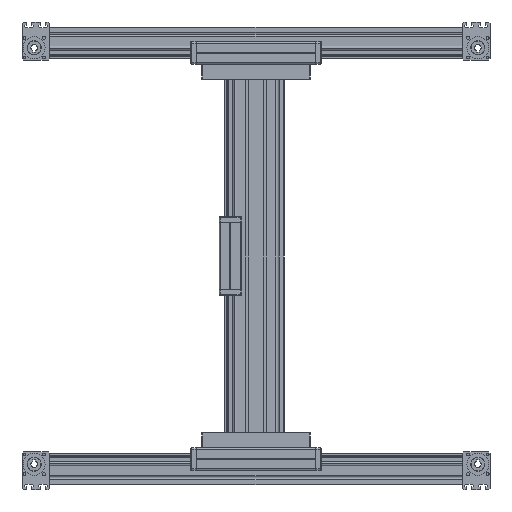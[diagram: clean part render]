
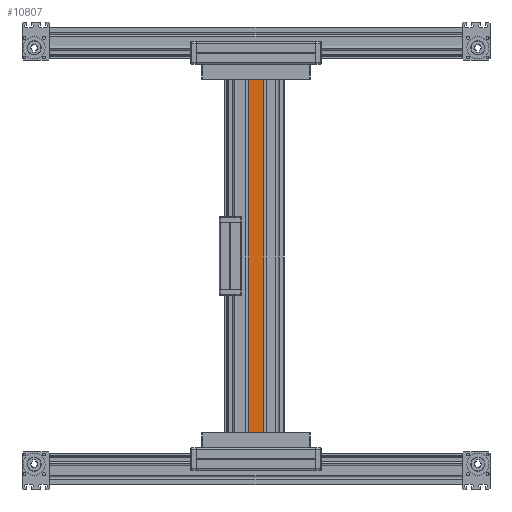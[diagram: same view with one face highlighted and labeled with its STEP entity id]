
A CAD part, left-side view. The second image highlights one B-rep face of the part: STEP entity #10807.
In plain terms, the highlighted planar face has unit normal (-1, 0, 0).
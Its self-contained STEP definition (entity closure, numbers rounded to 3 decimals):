
#427 = DIRECTION ( 'NONE',  ( -1., 0., 0. ) ) ;
#1083 = LINE ( 'NONE', #24496, #2079 ) ;
#2079 = VECTOR ( 'NONE', #24230, 1000. ) ;
#2418 = VECTOR ( 'NONE', #10545, 1000. ) ;
#3815 = ORIENTED_EDGE ( 'NONE', *, *, #11239, .F. ) ;
#4465 = CARTESIAN_POINT ( 'NONE',  ( -30., -16.95, 377. ) ) ;
#5096 = VERTEX_POINT ( 'NONE', #5383 ) ;
#5265 = VERTEX_POINT ( 'NONE', #4465 ) ;
#5383 = CARTESIAN_POINT ( 'NONE',  ( -30., 16.95, -377. ) ) ;
#5569 = ORIENTED_EDGE ( 'NONE', *, *, #7766, .T. ) ;
#5970 = LINE ( 'NONE', #10386, #13044 ) ;
#6412 = PLANE ( 'NONE',  #7068 ) ;
#7068 = AXIS2_PLACEMENT_3D ( 'NONE', #19569, #427, #8179 ) ;
#7766 = EDGE_CURVE ( 'NONE', #5265, #17857, #8281, .T. ) ;
#8179 = DIRECTION ( 'NONE',  ( 0., 0., 1. ) ) ;
#8281 = LINE ( 'NONE', #14219, #2418 ) ;
#8988 = EDGE_CURVE ( 'NONE', #17857, #5096, #5970, .T. ) ;
#10386 = CARTESIAN_POINT ( 'NONE',  ( -30., 16.95, 377. ) ) ;
#10394 = LINE ( 'NONE', #12422, #19211 ) ;
#10545 = DIRECTION ( 'NONE',  ( 0., 1., 0. ) ) ;
#10807 = ADVANCED_FACE ( 'NONE', ( #13639 ), #6412, .T. ) ;
#11239 = EDGE_CURVE ( 'NONE', #5265, #13970, #10394, .T. ) ;
#12422 = CARTESIAN_POINT ( 'NONE',  ( -30., -16.95, 377. ) ) ;
#12501 = CARTESIAN_POINT ( 'NONE',  ( -30., 16.95, 377. ) ) ;
#13044 = VECTOR ( 'NONE', #13820, 1000. ) ;
#13639 = FACE_OUTER_BOUND ( 'NONE', #23574, .T. ) ;
#13820 = DIRECTION ( 'NONE',  ( 0., 0., -1. ) ) ;
#13827 = DIRECTION ( 'NONE',  ( 0., 0., -1. ) ) ;
#13871 = EDGE_CURVE ( 'NONE', #13970, #5096, #1083, .T. ) ;
#13970 = VERTEX_POINT ( 'NONE', #21420 ) ;
#14219 = CARTESIAN_POINT ( 'NONE',  ( -30., 0., 377. ) ) ;
#14741 = ORIENTED_EDGE ( 'NONE', *, *, #8988, .T. ) ;
#17857 = VERTEX_POINT ( 'NONE', #12501 ) ;
#19211 = VECTOR ( 'NONE', #13827, 1000. ) ;
#19569 = CARTESIAN_POINT ( 'NONE',  ( -30., 0., 377. ) ) ;
#21420 = CARTESIAN_POINT ( 'NONE',  ( -30., -16.95, -377. ) ) ;
#23100 = ORIENTED_EDGE ( 'NONE', *, *, #13871, .F. ) ;
#23574 = EDGE_LOOP ( 'NONE', ( #23100, #3815, #5569, #14741 ) ) ;
#24230 = DIRECTION ( 'NONE',  ( 0., 1., 0. ) ) ;
#24496 = CARTESIAN_POINT ( 'NONE',  ( -30., 0., -377. ) ) ;
